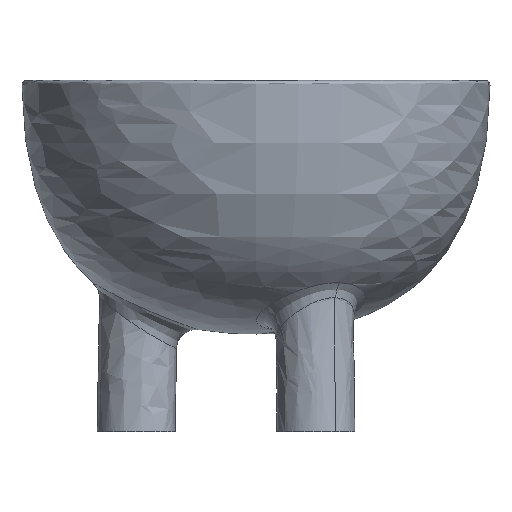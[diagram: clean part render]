
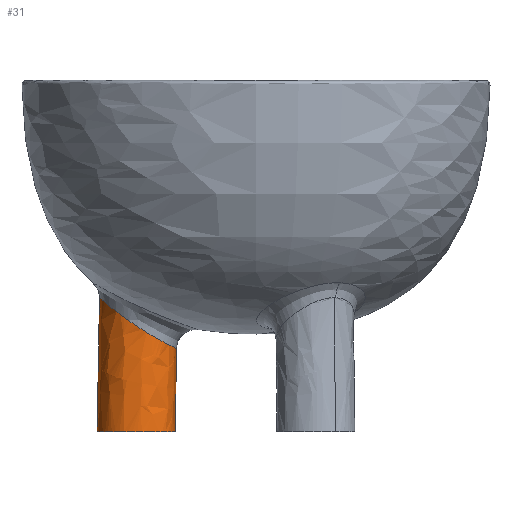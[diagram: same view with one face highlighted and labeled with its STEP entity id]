
A CAD part, front view. The second image highlights one B-rep face of the part: STEP entity #31.
In plain terms, the highlighted free-form (B-spline) face has degree [2, 1] with [5, 2] control points.
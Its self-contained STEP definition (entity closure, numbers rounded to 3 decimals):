
#31=ADVANCED_FACE('',(#48),#243,.T.);
#48=FACE_OUTER_BOUND('',#67,.T.);
#67=EDGE_LOOP('',(#126,#127,#128,#129));
#126=ORIENTED_EDGE('',*,*,#168,.T.);
#127=ORIENTED_EDGE('',*,*,#146,.T.);
#128=ORIENTED_EDGE('',*,*,#154,.F.);
#129=ORIENTED_EDGE('',*,*,#167,.F.);
#146=EDGE_CURVE('',#214,#221,#185,.T.);
#154=EDGE_CURVE('',#222,#221,#192,.T.);
#167=EDGE_CURVE('',#227,#222,#203,.T.);
#168=EDGE_CURVE('',#227,#214,#181,.T.);
#181=B_SPLINE_CURVE_WITH_KNOTS('',3,(#1792,#1793,#1794,#1795,#1796,#1797,
#1798,#1799,#1800,#1801,#1802,#1803,#1804,#1805,#1806,#1807,#1808,#1809,
#1810),.UNSPECIFIED.,.F.,.F.,(4,2,2,2,3,2,2,2,4),(31.621,35.573,
39.526,43.478,47.431,51.383,55.336,
59.289,63.241),.UNSPECIFIED.);
#185=(
BOUNDED_CURVE()
B_SPLINE_CURVE(1,(#1343,#1344),.UNSPECIFIED.,.F.,.F.)
B_SPLINE_CURVE_WITH_KNOTS((2,2),(17.295,26.6),
 .UNSPECIFIED.)
CURVE()
GEOMETRIC_REPRESENTATION_ITEM()
RATIONAL_B_SPLINE_CURVE((1.,1.))
REPRESENTATION_ITEM('')
);
#192=(
BOUNDED_CURVE()
B_SPLINE_CURVE(3,(#1570,#1571,#1572,#1573,#1574,#1575,#1576,#1577,#1578,
#1579,#1580,#1581,#1582,#1583,#1584,#1585,#1586,#1587,#1588,#1589,#1590,
#1591),.UNSPECIFIED.,.F.,.F.)
B_SPLINE_CURVE_WITH_KNOTS((4,1,1,1,1,1,1,1,1,1,1,1,1,1,1,1,1,1,1,4),(0.,
1.734,3.5,7.042,10.572,14.095,
17.319,19.122,20.947,22.903,24.695,
26.578,28.496,32.073,36.178,38.296,
40.444,42.627,44.827,49.204),
 .UNSPECIFIED.)
CURVE()
GEOMETRIC_REPRESENTATION_ITEM()
RATIONAL_B_SPLINE_CURVE((1.,1.,1.,1.,1.,1.,1.,1.,1.,
1.,1.,1.,1.,1.,1.,1.,1.,1.,
1.,1.,1.,1.))
REPRESENTATION_ITEM('')
);
#203=(
BOUNDED_CURVE()
B_SPLINE_CURVE(1,(#1790,#1791),.UNSPECIFIED.,.F.,.F.)
B_SPLINE_CURVE_WITH_KNOTS((2,2),(17.143,32.165),
 .UNSPECIFIED.)
CURVE()
GEOMETRIC_REPRESENTATION_ITEM()
RATIONAL_B_SPLINE_CURVE((1.,1.))
REPRESENTATION_ITEM('')
);
#214=VERTEX_POINT('',#1226);
#221=VERTEX_POINT('',#1233);
#222=VERTEX_POINT('',#1234);
#227=VERTEX_POINT('',#1239);
#243=(
BOUNDED_SURFACE()
B_SPLINE_SURFACE(2,1,((#1074,#1075),(#1076,#1077),(#1078,#1079),(#1080,
#1081),(#1082,#1083)),.UNSPECIFIED.,.F.,.F.,.F.)
B_SPLINE_SURFACE_WITH_KNOTS((3,2,3),(2,2),(31.416,47.124,
62.832),(0.,50.),.UNSPECIFIED.)
GEOMETRIC_REPRESENTATION_ITEM()
RATIONAL_B_SPLINE_SURFACE(((1.,1.),(0.707,0.707),
(1.,1.),(0.707,0.707),(1.,1.)))
REPRESENTATION_ITEM('')
SURFACE()
);
#1074=CARTESIAN_POINT('',(795.102,-1799.505,-39.145));
#1075=CARTESIAN_POINT('',(797.095,-1799.505,75.029));
#1076=CARTESIAN_POINT('',(795.102,-1809.505,-39.145));
#1077=CARTESIAN_POINT('',(797.095,-1809.505,75.029));
#1078=CARTESIAN_POINT('',(805.101,-1809.505,-39.319));
#1079=CARTESIAN_POINT('',(807.094,-1809.505,74.855));
#1080=CARTESIAN_POINT('',(815.099,-1809.505,-39.494));
#1081=CARTESIAN_POINT('',(817.092,-1809.505,74.68));
#1082=CARTESIAN_POINT('',(815.099,-1799.505,-39.494));
#1083=CARTESIAN_POINT('',(817.092,-1799.505,74.68));
#1226=CARTESIAN_POINT('',(815.789,-1799.505,0.));
#1233=CARTESIAN_POINT('',(816.159,-1799.505,21.246));
#1234=CARTESIAN_POINT('',(796.384,-1799.505,34.304));
#1239=CARTESIAN_POINT('',(795.785,-1799.505,0.));
#1343=CARTESIAN_POINT('',(815.789,-1799.505,0.));
#1344=CARTESIAN_POINT('',(816.159,-1799.505,21.246));
#1570=CARTESIAN_POINT('',(796.384,-1799.505,34.304));
#1571=CARTESIAN_POINT('',(796.384,-1799.891,34.304));
#1572=CARTESIAN_POINT('',(796.429,-1800.668,34.265));
#1573=CARTESIAN_POINT('',(796.695,-1802.206,34.032));
#1574=CARTESIAN_POINT('',(797.354,-1804.032,33.462));
#1575=CARTESIAN_POINT('',(798.583,-1805.933,32.433));
#1576=CARTESIAN_POINT('',(800.111,-1807.429,31.208));
#1577=CARTESIAN_POINT('',(801.585,-1808.364,30.085));
#1578=CARTESIAN_POINT('',(802.855,-1808.917,29.156));
#1579=CARTESIAN_POINT('',(803.931,-1809.248,28.392));
#1580=CARTESIAN_POINT('',(805.038,-1809.451,27.631));
#1581=CARTESIAN_POINT('',(806.175,-1809.526,26.875));
#1582=CARTESIAN_POINT('',(807.311,-1809.471,26.143));
#1583=CARTESIAN_POINT('',(808.803,-1809.22,25.215));
#1584=CARTESIAN_POINT('',(810.691,-1808.555,24.096));
#1585=CARTESIAN_POINT('',(812.438,-1807.404,23.13));
#1586=CARTESIAN_POINT('',(813.716,-1806.128,22.457));
#1587=CARTESIAN_POINT('',(814.563,-1805.008,22.024));
#1588=CARTESIAN_POINT('',(815.259,-1803.752,21.679));
#1589=CARTESIAN_POINT('',(815.946,-1801.939,21.346));
#1590=CARTESIAN_POINT('',(816.16,-1800.478,21.246));
#1591=CARTESIAN_POINT('',(816.159,-1799.505,21.246));
#1790=CARTESIAN_POINT('',(795.785,-1799.505,0.));
#1791=CARTESIAN_POINT('',(796.384,-1799.505,34.304));
#1792=CARTESIAN_POINT('',(795.785,-1799.505,0.));
#1793=CARTESIAN_POINT('',(795.785,-1800.819,0.));
#1794=CARTESIAN_POINT('',(796.044,-1802.119,0.));
#1795=CARTESIAN_POINT('',(797.05,-1804.546,0.));
#1796=CARTESIAN_POINT('',(797.786,-1805.648,0.));
#1797=CARTESIAN_POINT('',(799.644,-1807.505,0.));
#1798=CARTESIAN_POINT('',(800.746,-1808.242,0.));
#1799=CARTESIAN_POINT('',(803.173,-1809.247,0.));
#1800=CARTESIAN_POINT('',(804.474,-1809.505,0.));
#1801=CARTESIAN_POINT('',(805.787,-1809.505,0.));
#1802=CARTESIAN_POINT('',(807.1,-1809.505,0.));
#1803=CARTESIAN_POINT('',(808.401,-1809.247,0.));
#1804=CARTESIAN_POINT('',(810.827,-1808.242,0.));
#1805=CARTESIAN_POINT('',(811.93,-1807.505,0.));
#1806=CARTESIAN_POINT('',(813.788,-1805.648,0.));
#1807=CARTESIAN_POINT('',(814.524,-1804.546,0.));
#1808=CARTESIAN_POINT('',(815.53,-1802.119,0.));
#1809=CARTESIAN_POINT('',(815.789,-1800.819,0.));
#1810=CARTESIAN_POINT('',(815.789,-1799.505,0.));
